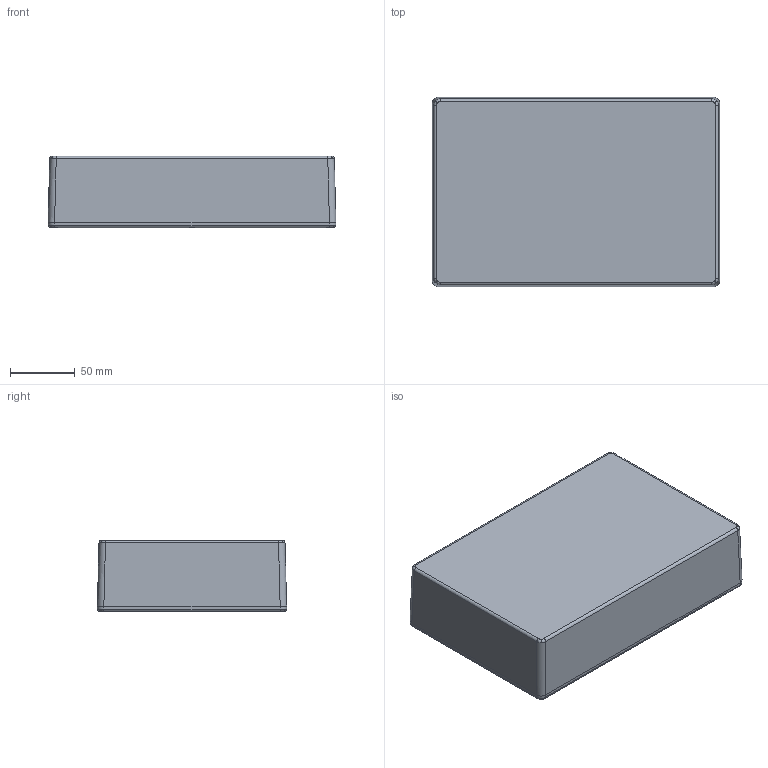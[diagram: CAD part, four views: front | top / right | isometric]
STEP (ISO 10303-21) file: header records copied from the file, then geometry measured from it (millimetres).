
FILE_DESCRIPTION(/* description */ (''),/* implementation_level */ '2;1');
FILE_NAME(/* name */ 'E:\Eng\Customer Service\Drawings\new 1550\STEP\1550G\1550G.iam.stp',/* time_stamp */ '2014-10-29T10:13:55-04:00',/* author */ ('tcook'),/* organization */ (''),/* preprocessor_version */ 'ST-DEVELOPER v15.2',/* originating_system */ 'Autodesk Inventor 2014',/* authorisation */ '');
FILE_SCHEMA (('AUTOMOTIVE_DESIGN { 1 0 10303 214 3 1 1 }'));
Products named in the file (4): 1550G BOX; 1550G-H LID; SC1550 (screw M3.5-0.6X 12mm FH); 1550G
Bounding box: 222 x 146 x 55.1 mm (x, y, z)
Volume: 217182 mm3; surface area: 206944.1 mm2
Topology: 8 solids, 8 shells, 1045 faces, 2786 edges, 1806 vertices
Faces by surface type: plane 403, bspline 382, cone 100, cylinder 98, torus 62
Full cylindrical faces by diameter (mm): 3 x6, 3.43 x6, 4.1 x6
Entity records: 45315 total; most frequent: CARTESIAN_POINT 24976, ORIENTED_EDGE 4778, DIRECTION 3170, EDGE_CURVE 2389, VERTEX_POINT 1569, LINE 1144, VECTOR 1144, EDGE_LOOP 1026
